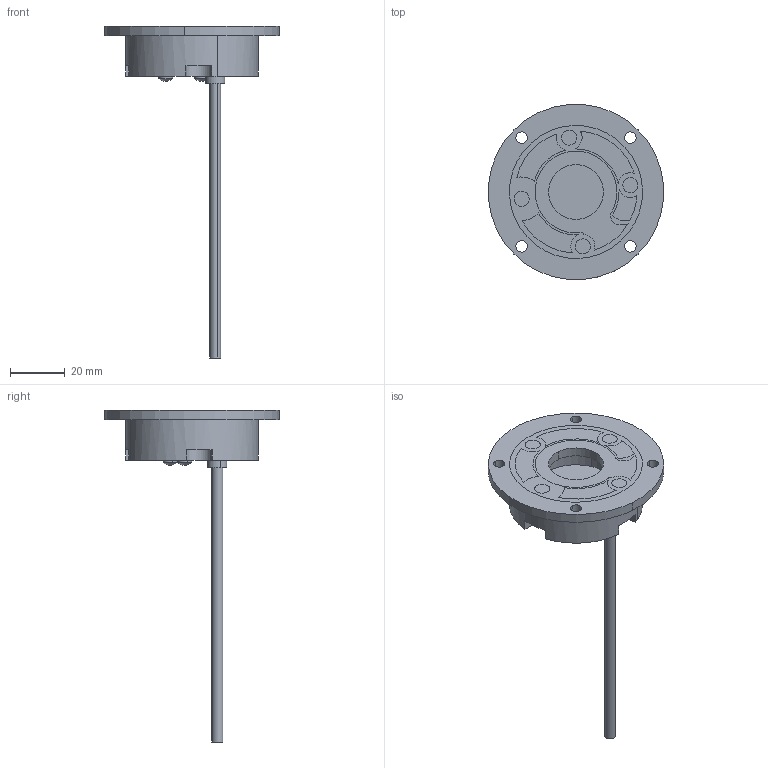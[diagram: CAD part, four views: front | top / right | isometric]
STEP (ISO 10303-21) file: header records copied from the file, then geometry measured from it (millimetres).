
FILE_DESCRIPTION (( 'STEP AP203' ), '1' );
FILE_NAME ('SR30.STEP', '2016-06-21T00:45:44', ( '' ), ( '' ), 'SwSTEP 2.0', 'SolidWorks 2014', '' );
FILE_SCHEMA (( 'CONFIG_CONTROL_DESIGN' ));
Length unit declared in the file: metre
Products named in the file (3): SR30-90-45; SR30
Assembly tree (2 placements, depth 2):
  SR30
    SR30-90-45
    (unnamed)
Bounding box: 63.76 x 63.76 x 121 mm (x, y, z)
Volume: 27855.2 mm3; surface area: 19798.5 mm2
Topology: 2 solids, 2 shells, 88 faces, 225 edges, 150 vertices
Faces by surface type: cylinder 60, plane 23, bspline 5
Entity records: 3488 total; most frequent: CARTESIAN_POINT 917, DIRECTION 515, ORIENTED_EDGE 450, EDGE_CURVE 225, AXIS2_PLACEMENT_3D 212, VERTEX_POINT 150, CIRCLE 124, EDGE_LOOP 115
